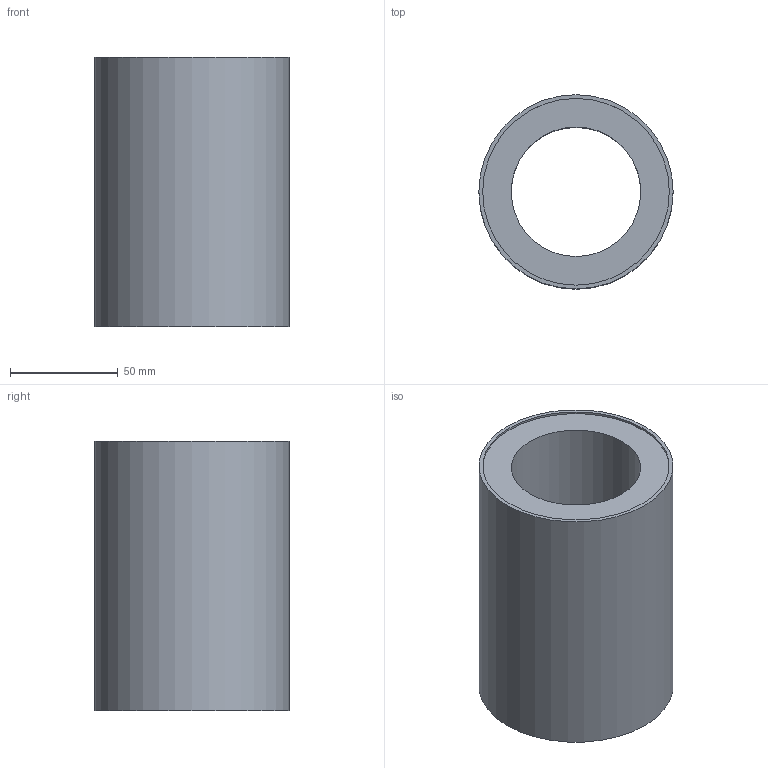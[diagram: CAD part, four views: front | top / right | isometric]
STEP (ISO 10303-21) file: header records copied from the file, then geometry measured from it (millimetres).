
FILE_DESCRIPTION(/* description */ (''),/* implementation_level */ '2;1');
FILE_NAME(/* name */ 'W:\WEBOVKY\Knecht\LME-UU\LME-60-UU\LME-60-UU.stp',/* time_stamp */ '2021-03-08T12:11:00+01:00',/* author */ ('mkorenek'),/* organization */ (''),/* preprocessor_version */ 'ST-DEVELOPER v18.1',/* originating_system */ 'Autodesk Inventor 2021',/* authorisation */ '');
FILE_SCHEMA (('AUTOMOTIVE_DESIGN { 1 0 10303 214 3 1 1 }'));
Length unit declared in the file: millimetre
Products named in the file (3): LME-60-UU; vnějšek pouzdra; vnitřek pouzdra
Assembly tree (2 placements, depth 2):
  LME-60-UU
    vnějšek pouzdra
    vnitřek pouzdra
Bounding box: 90 x 90 x 125 mm (x, y, z)
Volume: 435521.1 mm3; surface area: 132983.3 mm2
Topology: 2 solids, 2 shells, 8 faces, 16 edges, 12 vertices
Faces by surface type: plane 4, cylinder 4
Full cylindrical faces by diameter (mm): 60 x1, 86.49 x1, 86.5 x1, 90 x1
Entity records: 359 total; most frequent: DIRECTION 54, CARTESIAN_POINT 41, ORIENTED_EDGE 32, AXIS2_PLACEMENT_3D 25, EDGE_CURVE 16, EDGE_LOOP 12, CIRCLE 12, VERTEX_POINT 12
